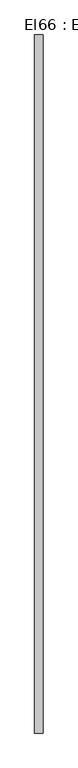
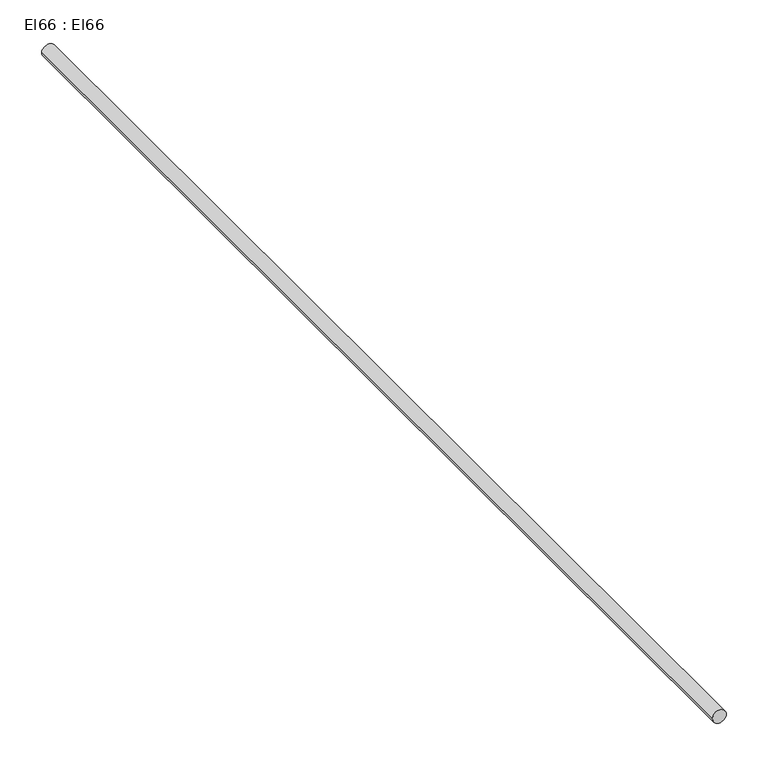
"""IFC4 building model written with IfcOpenShell, lengths in millimetres: cable carrier segment geometry, El66 : El66."""

import ifcopenshell
import ifcopenshell.guid

model = None  # the IFC model being written
_history = None  # IfcOwnerHistory: only IFC2X3 demands one
_inside = {}  # id of a spatial element -> (the spatial element, [elements in it])
_under = {}  # id of a project, library or spatial element -> (it, [spatial elements below it])
_declared = {}  # id of a project -> (the project, [libraries it declares])
_typed = {}  # id of a type object -> (the type object, [elements of that type])
_made_of = {}  # id of a material, layer set ... -> (it, [elements and type objects made of it])


def new_model(schema):
    """Start an empty IFC model of exactly this schema.

    Asked for "IFC4X3", IfcOpenShell would pick the latest addendum, in which some entities
    have other attributes; the version numbers below select the first issue.
    IFC2X3 requires an IfcOwnerHistory on every rooted entity: one is made here for all.
    """
    global model, _history
    if schema == "IFC4X3":
        model = ifcopenshell.file(schema_version=(4, 3, 0, 0))
    else:
        model = ifcopenshell.file(schema=schema)
    _inside.clear()
    _under.clear()
    _declared.clear()
    _typed.clear()
    _made_of.clear()
    _history = None
    if model.schema == "IFC2X3":
        org = make("IfcOrganization", Name="unknown")
        user = make(
            "IfcPersonAndOrganization",
            ThePerson=make("IfcPerson", FamilyName="unknown"),
            TheOrganization=org,
        )
        app = make(
            "IfcApplication",
            ApplicationDeveloper=org,
            Version="unknown",
            ApplicationFullName="unknown",
            ApplicationIdentifier="unknown",
        )
        _history = make(
            "IfcOwnerHistory",
            OwningUser=user,
            OwningApplication=app,
            ChangeAction="ADDED",
            CreationDate=0,
        )
    return model


def make(cls, **values):
    """One entity of the class cls with the attributes given. An attribute that is None is left unset."""
    return model.create_entity(
        cls, **{name: value for name, value in values.items() if value is not None}
    )


def rooted(cls, **values):
    """An entity with a GlobalId (a new one), such as an element, a storey or a relation."""
    return make(cls, GlobalId=ifcopenshell.guid.new(), OwnerHistory=_history, **values)


def si_unit(unit_type, name, prefix=None):
    """IfcSIUnit, for example si_unit("LENGTHUNIT", "METRE", prefix="MILLI")."""
    return make("IfcSIUnit", UnitType=unit_type, Prefix=prefix, Name=name)


def assignment(units):
    """IfcUnitAssignment: the units of a project."""
    return None if units is None else make("IfcUnitAssignment", Units=units)


def point(xyz):
    """IfcCartesianPoint."""
    return None if xyz is None else make("IfcCartesianPoint", Coordinates=xyz)


def direction(xyz):
    """IfcDirection."""
    return None if xyz is None else make("IfcDirection", DirectionRatios=xyz)


def frame(location, z_axis=None, x_axis=None):
    """IfcAxis2Placement3D, a coordinate frame: its origin and axes. An axis left out is left unset."""
    return make(
        "IfcAxis2Placement3D",
        Location=point(location),
        Axis=direction(z_axis),
        RefDirection=direction(x_axis),
    )


def frame_2d(location, x_axis=None):
    """IfcAxis2Placement2D, a coordinate frame in the plane: its origin and x axis."""
    return make(
        "IfcAxis2Placement2D", Location=point(location), RefDirection=direction(x_axis)
    )


def origin():
    """The frame at (0, 0, 0) with its axes left unset."""
    return frame((0.0, 0.0, 0.0))


def place(relative_to, where):
    """IfcLocalPlacement: puts the frame where relative to a parent placement (None: the world)."""
    return make(
        "IfcLocalPlacement", PlacementRelTo=relative_to, RelativePlacement=where
    )


def context(
    kind, dimensions, precision=None, world=None, true_north=None, identifier=None
):
    """IfcGeometricRepresentationContext, for example the 3D "Model" context."""
    return make(
        "IfcGeometricRepresentationContext",
        ContextIdentifier=identifier,
        ContextType=kind,
        CoordinateSpaceDimension=dimensions,
        Precision=precision,
        WorldCoordinateSystem=world,
        TrueNorth=true_north,
    )


def project(units=None, contexts=None):
    """IfcProject with its units and contexts."""
    return rooted(
        "IfcProject",
        Name="project",
        RepresentationContexts=contexts,
        UnitsInContext=assignment(units),
    )


def spatial(cls, under=None, at=None, **own):
    """A site, building, storey or space (cls), placed at a placement, below another one or the project."""
    s = rooted(cls, ObjectPlacement=at, **own)
    if under is not None:
        _under.setdefault(under.id(), (under, []))[1].append(s)
    return s


def circle_curve(where, radius):
    """IfcCircle in the frame where."""
    return make("IfcCircle", Position=where, Radius=radius)


def trimmed(basis, trim1, trim2, sense, master):
    """IfcTrimmedCurve: the piece of a basis curve between two trims."""
    return make(
        "IfcTrimmedCurve",
        BasisCurve=basis,
        Trim1=trim1,
        Trim2=trim2,
        SenseAgreement=sense,
        MasterRepresentation=master,
    )


def segment(curve, same_sense, transition):
    """IfcCompositeCurveSegment."""
    return make(
        "IfcCompositeCurveSegment",
        Transition=transition,
        SameSense=same_sense,
        ParentCurve=curve,
    )


def composite_curve(segments, self_intersect=None):
    """IfcCompositeCurve: segments joined end to end."""
    return make("IfcCompositeCurve", Segments=segments, SelfIntersect=self_intersect)


def outline(outer, holes=None, kind="AREA"):
    """IfcArbitraryClosedProfileDef: a profile drawn as a closed curve; with holes, ...WithVoids."""
    if holes is None:
        return make("IfcArbitraryClosedProfileDef", ProfileType=kind, OuterCurve=outer)
    return make(
        "IfcArbitraryProfileDefWithVoids",
        ProfileType=kind,
        OuterCurve=outer,
        InnerCurves=holes,
    )


def extrude(swept, where, along, depth):
    """IfcExtrudedAreaSolid: the profile swept, set in the frame where, extruded along a direction by depth."""
    return make(
        "IfcExtrudedAreaSolid",
        SweptArea=swept,
        Position=where,
        ExtrudedDirection=direction(along),
        Depth=depth,
    )


def shape(context_of_items, identifier, shape_type, items):
    """IfcShapeRepresentation: the items that make up one representation, for example the "Body"."""
    return make(
        "IfcShapeRepresentation",
        ContextOfItems=context_of_items,
        RepresentationIdentifier=identifier,
        RepresentationType=shape_type,
        Items=items,
    )


def source(mapping_origin, context_of_items, identifier, shape_type, items):
    """IfcRepresentationMap: a shape defined once, which mapped items show again and again."""
    return make(
        "IfcRepresentationMap",
        MappingOrigin=mapping_origin,
        MappedRepresentation=shape(context_of_items, identifier, shape_type, items),
    )


def transform(
    local_origin,
    x_axis=None,
    y_axis=None,
    z_axis=None,
    scale=None,
    scale2=None,
    scale3=None,
    uniform=True,
):
    """IfcCartesianTransformationOperator3D, or its non-uniform kind. x_axis, y_axis, z_axis: its Axis1, 2, 3."""
    if uniform:
        return make(
            "IfcCartesianTransformationOperator3D",
            Axis1=direction(x_axis),
            Axis2=direction(y_axis),
            LocalOrigin=point(local_origin),
            Scale=scale,
            Axis3=direction(z_axis),
        )
    return make(
        "IfcCartesianTransformationOperator3DnonUniform",
        Axis1=direction(x_axis),
        Axis2=direction(y_axis),
        LocalOrigin=point(local_origin),
        Scale=scale,
        Axis3=direction(z_axis),
        Scale2=scale2,
        Scale3=scale3,
    )


def mapped(mapping_source, mapping_target):
    """IfcMappedItem: shows the shape of a source again, moved by a transform."""
    return make(
        "IfcMappedItem", MappingSource=mapping_source, MappingTarget=mapping_target
    )


def made_of(thing, what):
    """Note that an element or type object is made of a material, layer set ...; save() writes the relation."""
    if what is not None:
        _made_of.setdefault(what.id(), (what, []))[1].append(thing)
    return thing


def element(
    cls,
    number,
    at=None,
    inside=None,
    cuts=None,
    type_object=None,
    material=None,
    context=None,
    identifier="Body",
    shape_type=None,
    held_by="IfcProductDefinitionShape",
    body=None,
    shapes=None,
    **own,
):
    """One element of the class cls, such as IfcWall. Its Tag is "e" and its number.

    at: its placement. inside: the storey or other place that contains it. cuts: it is an
    opening in that element (IfcRelVoidsElement). A single representation is given by context,
    identifier, shape_type and body (its items); several are given by shapes. held_by: the class
    of the entity that holds the representations. save() writes the other relations.
    """
    e = rooted(cls, Tag="e%d" % number, ObjectPlacement=at, **own)
    if body is not None:
        shapes = [shape(context, identifier, shape_type, body)]
    if shapes is not None:
        e.Representation = make(held_by, Representations=shapes)
    if inside is not None:
        _inside.setdefault(inside.id(), (inside, []))[1].append(e)
    if cuts is not None:
        rooted(
            "IfcRelVoidsElement", RelatingBuildingElement=cuts, RelatedOpeningElement=e
        )
    if type_object is not None:
        _typed.setdefault(type_object.id(), (type_object, []))[1].append(e)
    return made_of(e, material)


def aggregate(whole, parts):
    """IfcRelAggregates: a whole, such as a stair, and the parts it consists of."""
    return rooted("IfcRelAggregates", RelatingObject=whole, RelatedObjects=parts)


def save(model, path):
    """Write the relations noted so far, then the file.

    IfcRelAggregates (storeys below a building ...), IfcRelContainedInSpatialStructure (elements
    in a storey), IfcRelDefinesByType, IfcRelAssociatesMaterial and IfcRelDeclares: one each for
    every whole, place, type object, material and project.
    """
    for whole, parts in _under.values():
        aggregate(whole, parts)
    for where, things in _inside.values():
        rooted(
            "IfcRelContainedInSpatialStructure",
            RelatedElements=things,
            RelatingStructure=where,
        )
    for kind, things in _typed.values():
        rooted("IfcRelDefinesByType", RelatedObjects=things, RelatingType=kind)
    for what, things in _made_of.values():
        rooted("IfcRelAssociatesMaterial", RelatedObjects=things, RelatingMaterial=what)
    for by, libraries in _declared.values():
        rooted("IfcRelDeclares", RelatingContext=by, RelatedDefinitions=libraries)
    model.write(path)


def el66_el66_6a3345a7(model_context):
    return source(origin(), model_context, "Body", "SweptSolid", [
        extrude(outline(composite_curve([segment(trimmed(circle_curve(frame_2d((1200.0, 16250.0)), 9.5), [point((1200.0, 16240.5))], [point((1200.0, 16259.5))], False, "CARTESIAN"), True, "CONTINUOUS"), segment(trimmed(circle_curve(frame_2d((1200.0, 16250.0)), 9.5), [point((1200.0, 16259.5))], [point((1200.0, 16240.5))], False, "CARTESIAN"), True, "CONTINUOUS")], self_intersect=False)), frame((0.0, 16802.117, 0.0), z_axis=(0.0, 1.0, 0.0), x_axis=(0.0, 0.0, 1.0)), (0.0, 0.0, 1.0), 1606.17),
    ])


if __name__ == "__main__":
    model = new_model("IFC4")
    model_context = context("Model", 3, world=origin())
    ifc_project = project(units=[si_unit("LENGTHUNIT", "METRE", prefix="MILLI")], contexts=[model_context])
    site = spatial("IfcSite", under=ifc_project)
    building = spatial("IfcBuilding", under=site)
    placement = place(None, origin())
    el66_el66_shape = el66_el66_6a3345a7(model_context)
    element("IfcCableCarrierSegment", 1, ObjectType="El66 : El66", at=placement, inside=building, context=model_context, shape_type="MappedRepresentation", body=[
        mapped(el66_el66_shape, transform((0.0, 0.0, 0.0), x_axis=(1.0, 0.0, 0.0), y_axis=(0.0, 1.0, 0.0), z_axis=(0.0, 0.0, 1.0))),
    ])
    save(model, "model.ifc")
